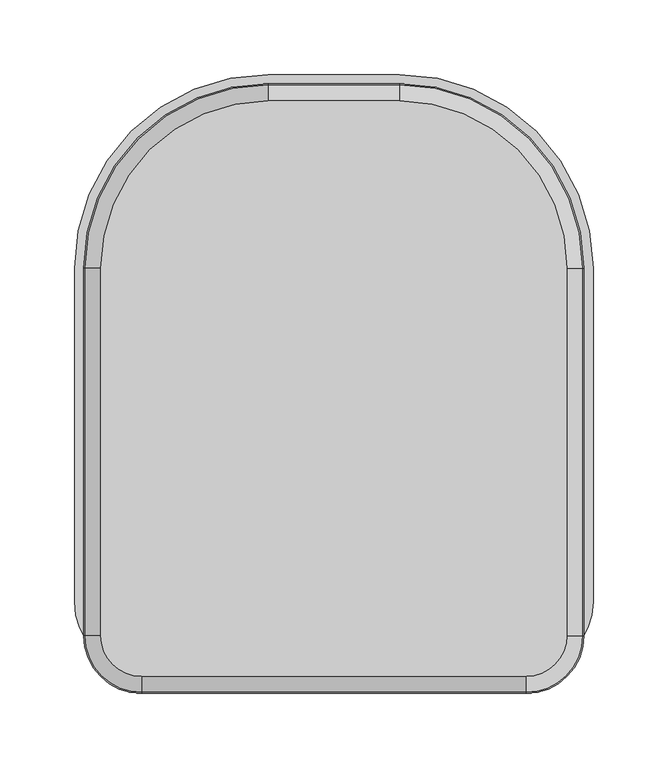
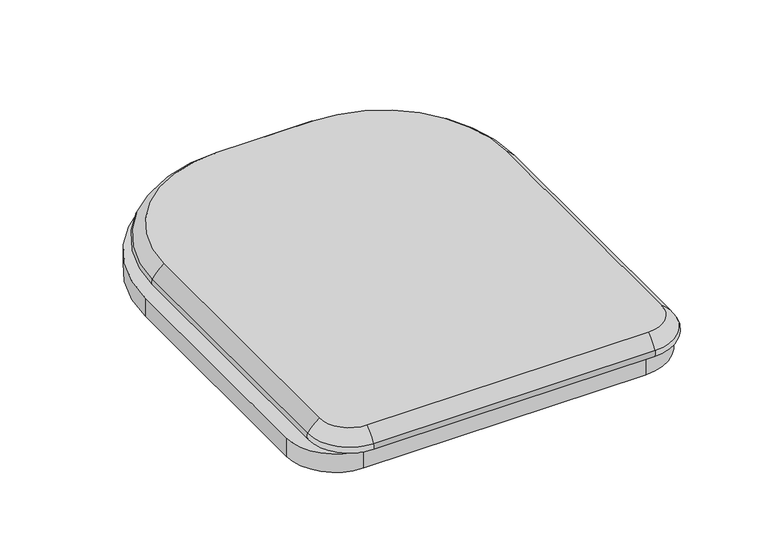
"""IFC4 building model written with IfcOpenShell, lengths in millimetres: flow terminal geometry, Inodoro-Ferrum-Tapa_y_Asiento-TKMP_TKM_TKXM_TKXMC : Tapa de Inodoro."""

from ifc_helpers import new_model, si_unit, point, frame, frame_2d, origin, origin_with_axes, place, context, project, spatial, polyline, circle_curve, ellipse_curve, trimmed, segment, composite_curve, outline, extrude, source, transform, mapped, element, save
from ifc_brep_helpers import plane_surface, cylinder_surface, revolved_surface, advanced_brep


def flow_terminal_28779c85(model_context):
    return source(origin(), model_context, "Body", "SolidModel", [
        advanced_brep(
        [(-166.1480965, 298.6126114, 26.7638331), (-166.1480965, 544.8728658, 26.7638331), (-44.0734074, 666.947555, 26.7638331), (44.0734074, 666.947555, 26.7638331), (166.1480965, 544.8728658, 26.7638331), (166.1480965, 298.6126114, 26.7638331), (129.0734074, 261.5379222, 26.7638331), (-129.0734074, 261.5379222, 26.7638331), (-129.0734074, 271.2600119, 44.5710314), (129.0734074, 271.2600119, 44.5710314), (156.4260068, 298.6126114, 44.5710314), (156.4260068, 544.8728658, 44.5710314), (44.0734074, 657.2254652, 44.5710314), (-44.0734074, 657.2254652, 44.5710314), (-156.4260068, 544.8728658, 44.5710314), (-156.4260068, 298.6126114, 44.5710314), (-167.2181632, 298.6126114, 33.1193398), (-129.0734074, 260.4678555, 33.1193398), (-167.2181632, 544.8728658, 33.1193398), (-44.0734074, 668.0176216, 33.1193398), (44.0734074, 668.0176216, 33.1193398), (167.2181632, 544.8728658, 33.1193398), (167.2181632, 298.6126114, 33.1193398), (129.0734074, 260.4678555, 33.1193398)],
        [
            (0, 1),
            (1, 2, circle_curve(frame((-44.0734074, 544.8728658, 26.7638331), z_axis=(0.0, 0.0, -1.0), x_axis=(-1.0, 0.0, 0.0)), 122.0746892)),
            (2, 3),
            (3, 4, circle_curve(frame((44.0734074, 544.8728658, 26.7638331), z_axis=(0.0, 0.0, -1.0), x_axis=(0.0, 1.0, 0.0)), 122.0746892)),
            (4, 5),
            (5, 6, circle_curve(frame((129.0734074, 298.6126114, 26.7638331), z_axis=(0.0, 0.0, -1.0), x_axis=(1.0, 0.0, 0.0)), 37.0746892)),
            (6, 7),
            (7, 0, circle_curve(frame((-129.0734074, 298.6126114, 26.7638331), z_axis=(0.0, 0.0, -1.0), x_axis=(0.0, -1.0, 0.0)), 37.0746892)),
            (8, 9),
            (9, 10, circle_curve(frame((129.0734074, 298.6126114, 44.5710314), z_axis=(0.0, 0.0, 1.0), x_axis=(1.0, 0.0, 0.0)), 27.3525994)),
            (10, 11),
            (11, 12, circle_curve(frame((44.0734074, 544.8728658, 44.5710314), z_axis=(0.0, 0.0, 1.0), x_axis=(0.0, 1.0, 0.0)), 112.3525994)),
            (12, 13),
            (13, 14, circle_curve(frame((-44.0734074, 544.8728658, 44.5710314), z_axis=(0.0, 0.0, 1.0), x_axis=(-1.0, 0.0, 0.0)), 112.3525994)),
            (14, 15),
            (15, 8, circle_curve(frame((-129.0734074, 298.6126114, 44.5710314), z_axis=(0.0, 0.0, 1.0), x_axis=(0.0, -1.0, 0.0)), 27.3525994)),
            (16, 0, circle_curve(frame((-163.0053219, 298.6126114, 30.5608132), z_axis=(0.0, -1.0, 0.0), x_axis=(1.0, 0.0, 0.0)), 4.9289036)),
            (7, 17, circle_curve(frame((-129.0734074, 264.6806969, 30.5608132), z_axis=(-1.0, 0.0, 0.0), x_axis=(0.0, 1.0, 0.0)), 4.9289036)),
            (17, 16, circle_curve(frame((-129.0734074, 298.6126114, 33.1193398), z_axis=(0.0, 0.0, -1.0), x_axis=(0.0, -1.0, 0.0)), 38.1447559)),
            (17, 8, circle_curve(frame((-129.0734074, 292.7311736, 13.5253057), z_axis=(-1.0, 0.0, 0.0), x_axis=(0.0, 1.0, 0.0)), 37.7471571)),
            (15, 16, circle_curve(frame((-134.9548451, 298.6126114, 13.5253057), z_axis=(0.0, -1.0, 0.0), x_axis=(1.0, 0.0, 0.0)), 37.7471571)),
            (18, 1, circle_curve(frame((-163.0053219, 544.8728658, 30.5608132), z_axis=(0.0, -1.0, 0.0), x_axis=(1.0, 0.0, 0.0)), 4.9289036)),
            (16, 18),
            (14, 18, circle_curve(frame((-134.9548451, 544.8728658, 13.5253057), z_axis=(0.0, -1.0, 0.0), x_axis=(1.0, 0.0, 0.0)), 37.7471571)),
            (19, 2, circle_curve(frame((-44.0734074, 663.8047803, 30.5608132), z_axis=(-1.0, 0.0, 0.0), x_axis=(0.0, -1.0, 0.0)), 4.9289036)),
            (18, 19, circle_curve(frame((-44.0734074, 544.8728658, 33.1193398), z_axis=(0.0, 0.0, -1.0), x_axis=(-1.0, 0.0, 0.0)), 123.1447559)),
            (13, 19, circle_curve(frame((-44.0734074, 635.7543035, 13.5253057), z_axis=(-1.0, 0.0, 0.0), x_axis=(0.0, -1.0, 0.0)), 37.7471571)),
            (20, 3, circle_curve(frame((44.0734074, 663.8047803, 30.5608132), z_axis=(-1.0, 0.0, 0.0), x_axis=(0.0, -1.0, 0.0)), 4.9289036)),
            (19, 20),
            (12, 20, circle_curve(frame((44.0734074, 635.7543035, 13.5253057), z_axis=(-1.0, 0.0, 0.0), x_axis=(0.0, -1.0, 0.0)), 37.7471571)),
            (21, 4, circle_curve(frame((163.0053219, 544.8728658, 30.5608132), z_axis=(0.0, 1.0, 0.0), x_axis=(-1.0, 0.0, 0.0)), 4.9289036)),
            (20, 21, circle_curve(frame((44.0734074, 544.8728658, 33.1193398), z_axis=(0.0, 0.0, -1.0), x_axis=(0.0, 1.0, 0.0)), 123.1447559)),
            (11, 21, circle_curve(frame((134.9548451, 544.8728658, 13.5253057), z_axis=(0.0, 1.0, 0.0), x_axis=(-1.0, 0.0, 0.0)), 37.7471571)),
            (22, 5, circle_curve(frame((163.0053219, 298.6126114, 30.5608132), z_axis=(0.0, 1.0, 0.0), x_axis=(-1.0, 0.0, 0.0)), 4.9289036)),
            (21, 22),
            (10, 22, circle_curve(frame((134.9548451, 298.6126114, 13.5253057), z_axis=(0.0, 1.0, 0.0), x_axis=(-1.0, 0.0, 0.0)), 37.7471571)),
            (23, 6, circle_curve(frame((129.0734074, 264.6806969, 30.5608132), z_axis=(1.0, 0.0, 0.0), x_axis=(0.0, 1.0, 0.0)), 4.9289036)),
            (22, 23, circle_curve(frame((129.0734074, 298.6126114, 33.1193398), z_axis=(0.0, 0.0, -1.0), x_axis=(1.0, 0.0, 0.0)), 38.1447559)),
            (9, 23, circle_curve(frame((129.0734074, 292.7311736, 13.5253057), z_axis=(1.0, 0.0, 0.0), x_axis=(0.0, 1.0, 0.0)), 37.7471571)),
            (23, 17),
        ],
        [
            plane_surface(frame((95.7621224, 240.5757205, 26.7638331), z_axis=(0.0, 0.0, -1.0), x_axis=(1.0, 0.0, 0.0))),
            plane_surface(frame((95.7621224, 240.5757205, 44.5710314), z_axis=(0.0, 0.0, 1.0), x_axis=(1.0, 0.0, 0.0))),
            revolved_surface(trimmed(ellipse_curve(frame((-129.0734074, 264.6806969, 30.5608132), z_axis=(-1.0, 0.0, 0.0), x_axis=(0.0, 1.0, 0.0)), 4.9289036, 4.9289036), [point((-129.0734074, 263.9894787, 25.6806177))], [point((-129.0734074, 260.4678555, 33.1193398))], True, "CARTESIAN"), (-129.0734074, 298.6126114, 44.5710314), (0.0, 0.0, 1.0)),
            revolved_surface(trimmed(ellipse_curve(frame((-129.0734074, 292.7311736, 13.5253057), z_axis=(-1.0, 0.0, 0.0), x_axis=(0.0, 1.0, 0.0)), 37.7471571, 37.7471571), [point((-129.0734074, 260.4678555, 33.1193398))], [point((-129.0734074, 277.8180133, 48.2016019))], True, "CARTESIAN"), (-129.0734074, 298.6126114, 44.5710314), (0.0, 0.0, 1.0)),
            cylinder_surface(frame((-163.0053219, 298.6126114, 30.5608132), z_axis=(0.0, 1.0, 0.0), x_axis=(1.0, 0.0, 0.0)), 4.9289036),
            cylinder_surface(frame((-134.9548451, 298.6126114, 13.5253057), z_axis=(0.0, 1.0, 0.0), x_axis=(1.0, 0.0, 0.0)), 37.7471571),
            revolved_surface(trimmed(ellipse_curve(frame((-163.0053219, 544.8728658, 30.5608132), z_axis=(0.0, 1.0, 0.0), x_axis=(1.0, 0.0, 0.0)), 4.9289036, 4.9289036), [point((-163.69654, 544.8728658, 25.6806177))], [point((-167.2181632, 544.8728658, 33.1193398))], True, "CARTESIAN"), (-44.0734074, 544.8728658, 44.5710314), (0.0, 0.0, 1.0)),
            revolved_surface(trimmed(ellipse_curve(frame((-134.9548451, 544.8728658, 13.5253057), z_axis=(0.0, 1.0, 0.0), x_axis=(1.0, 0.0, 0.0)), 37.7471571, 37.7471571), [point((-167.2181632, 544.8728658, 33.1193398))], [point((-149.8680054, 544.8728658, 48.2016019))], True, "CARTESIAN"), (-44.0734074, 544.8728658, 44.5710314), (0.0, 0.0, 1.0)),
            cylinder_surface(frame((-44.0734074, 663.8047803, 30.5608132), z_axis=(1.0, 0.0, 0.0), x_axis=(0.0, -1.0, 0.0)), 4.9289036),
            cylinder_surface(frame((-44.0734074, 635.7543035, 13.5253057), z_axis=(1.0, 0.0, 0.0), x_axis=(0.0, -1.0, 0.0)), 37.7471571),
            revolved_surface(trimmed(ellipse_curve(frame((44.0734074, 663.8047803, 30.5608132), z_axis=(1.0, 0.0, 0.0), x_axis=(0.0, -1.0, 0.0)), 4.9289036, 4.9289036), [point((44.0734074, 664.4959984, 25.6806177))], [point((44.0734074, 668.0176216, 33.1193398))], True, "CARTESIAN"), (44.0734074, 544.8728658, 44.5710314), (0.0, 0.0, 1.0)),
            revolved_surface(trimmed(ellipse_curve(frame((44.0734074, 635.7543035, 13.5253057), z_axis=(1.0, 0.0, 0.0), x_axis=(0.0, -1.0, 0.0)), 37.7471571, 37.7471571), [point((44.0734074, 668.0176216, 33.1193398))], [point((44.0734074, 650.6674639, 48.2016019))], True, "CARTESIAN"), (44.0734074, 544.8728658, 44.5710314), (0.0, 0.0, 1.0)),
            cylinder_surface(frame((163.0053219, 544.8728658, 30.5608132), z_axis=(0.0, -1.0, 0.0), x_axis=(-1.0, 0.0, 0.0)), 4.9289036),
            cylinder_surface(frame((134.9548451, 544.8728658, 13.5253057), z_axis=(0.0, -1.0, 0.0), x_axis=(-1.0, 0.0, 0.0)), 37.7471571),
            revolved_surface(trimmed(ellipse_curve(frame((163.0053219, 298.6126114, 30.5608132), z_axis=(0.0, -1.0, 0.0), x_axis=(-1.0, 0.0, 0.0)), 4.9289036, 4.9289036), [point((163.69654, 298.6126114, 25.6806177))], [point((167.2181632, 298.6126114, 33.1193398))], True, "CARTESIAN"), (129.0734074, 298.6126114, 44.5710314), (0.0, 0.0, 1.0)),
            revolved_surface(trimmed(ellipse_curve(frame((134.9548451, 298.6126114, 13.5253057), z_axis=(0.0, -1.0, 0.0), x_axis=(-1.0, 0.0, 0.0)), 37.7471571, 37.7471571), [point((167.2181632, 298.6126114, 33.1193398))], [point((149.8680054, 298.6126114, 48.2016019))], True, "CARTESIAN"), (129.0734074, 298.6126114, 44.5710314), (0.0, 0.0, 1.0)),
            cylinder_surface(frame((129.0734074, 264.6806969, 30.5608132), z_axis=(-1.0, 0.0, 0.0), x_axis=(0.0, 1.0, 0.0)), 4.9289036),
            cylinder_surface(frame((129.0734074, 292.7311736, 13.5253057), z_axis=(-1.0, 0.0, 0.0), x_axis=(0.0, 1.0, 0.0)), 37.7471571),
        ],
        [
            (0, [[1, 2, 3, 4, 5, 6, 7, 8]]),
            (1, [[9, 10, 11, 12, 13, 14, 15, 16]]),
            (2, [[17, -8, 18, 19]]),
            (3, [[20, -16, 21, -19]]),
            (4, [[22, -1, -17, 23]]),
            (5, [[-21, -15, 24, -23]]),
            (6, [[25, -2, -22, 26]]),
            (7, [[-24, -14, 27, -26]]),
            (8, [[28, -3, -25, 29]]),
            (9, [[-27, -13, 30, -29]]),
            (10, [[31, -4, -28, 32]]),
            (11, [[-30, -12, 33, -32]]),
            (12, [[34, -5, -31, 35]]),
            (13, [[-33, -11, 36, -35]]),
            (14, [[37, -6, -34, 38]]),
            (15, [[-36, -10, 39, -38]]),
            (16, [[-18, -7, -37, 40]]),
            (17, [[-39, -9, -20, -40]]),
        ],
    ),
        extrude(outline(composite_curve([segment(trimmed(circle_curve(frame_2d((-129.0734074, 321.1126114)), 45.0), [point((-129.0734074, 276.1126114))], [point((-174.0734074, 321.1126114))], False, "CARTESIAN"), True, "CONTINUOUS"), segment(polyline([(-174.0734074, 321.1126114), (-174.0734074, 544.8728658)]), True, "CONTINUOUS"), segment(trimmed(circle_curve(frame_2d((-44.0734074, 544.8728658)), 130.0), [point((-174.0734074, 544.8728658))], [point((-44.0734074, 674.8728658))], False, "CARTESIAN"), True, "CONTINUOUS"), segment(polyline([(-44.0734074, 674.8728658), (44.0734074, 674.8728658)]), True, "CONTINUOUS"), segment(trimmed(circle_curve(frame_2d((44.0734074, 544.8728658)), 130.0), [point((44.0734074, 674.8728658))], [point((174.0734074, 544.8728658))], False, "CARTESIAN"), True, "CONTINUOUS"), segment(polyline([(174.0734074, 544.8728658), (174.0734074, 321.1126114)]), True, "CONTINUOUS"), segment(trimmed(circle_curve(frame_2d((129.0734074, 321.1126114)), 45.0), [point((174.0734074, 321.1126114))], [point((129.0734074, 276.1126114))], False, "CARTESIAN"), True, "CONTINUOUS"), segment(polyline([(129.0734074, 276.1126114), (-129.0734074, 276.1126114)]), True, "CONTINUOUS")], self_intersect=False)), origin_with_axes(), (0.0, 0.0, 1.0), 17.8071983),
    ])


if __name__ == "__main__":
    model = new_model("IFC4")
    model_context = context("Model", 3, world=origin())
    ifc_project = project(units=[si_unit("LENGTHUNIT", "METRE", prefix="MILLI")], contexts=[model_context])
    site = spatial("IfcSite", under=ifc_project)
    building = spatial("IfcBuilding", under=site)
    placement = place(None, origin())
    flow_terminal_shape = flow_terminal_28779c85(model_context)
    element("IfcFlowTerminal", 1, ObjectType="Inodoro-Ferrum-Tapa_y_Asiento-TKMP_TKM_TKXM_TKXMC : Tapa de Inodoro", at=placement, inside=building, context=model_context, shape_type="MappedRepresentation", body=[
        mapped(flow_terminal_shape, transform((0.0, 0.0, 0.0), x_axis=(1.0, 0.0, 0.0), y_axis=(0.0, 1.0, 0.0), z_axis=(0.0, 0.0, 1.0))),
    ])
    save(model, "model.ifc")
